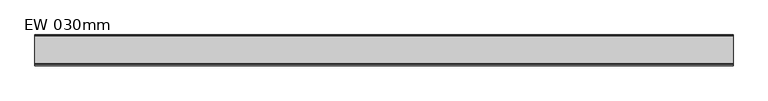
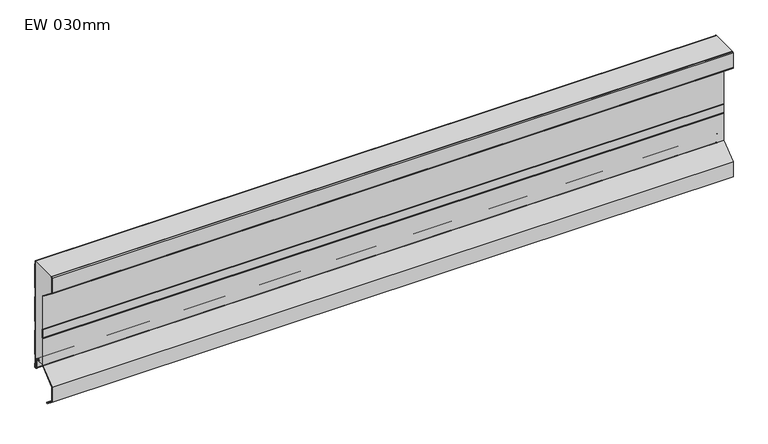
"""IFC4 building model written with IfcOpenShell, lengths in millimetres: plate geometry, KIP-MEX-KC-R19-CP-EW-SL : EW 030mm."""

from ifc_helpers import new_model, si_unit, point, frame, frame_2d, origin, place, context, project, spatial, polyline, circle_curve, trimmed, segment, composite_curve, outline, extrude, source, transform, mapped, element, save


def ew_030mm_0b81b853(model_context):
    return source(origin(), model_context, "Body", "SweptSolid", [
        extrude(outline(composite_curve([segment(polyline([(-2.2002307, 217.6192114), (-2.2002307, 224.3718713), (-1.2002307, 224.3718713), (-1.2002307, 217.9920919), (-0.3417885, 217.0010442)]), True, "CONTINUOUS"), segment(trimmed(circle_curve(frame_2d((-1.3999972, 216.0844273)), 1.3999972), [point((-0.3417885, 217.0010442))], [point((0.0, 216.0844273))], False, "CARTESIAN"), True, "CONTINUOUS"), segment(polyline([(0.0, 216.0844273), (0.0, 162.3293142)]), True, "CONTINUOUS"), segment(trimmed(circle_curve(frame_2d((-1.3999972, 162.3293142)), 1.3999972), [point((0.0, 162.3293142))], [point((-0.3417885, 161.4126973))], False, "CARTESIAN"), True, "CONTINUOUS"), segment(polyline([(-0.3417885, 161.4126973), (-1.2002307, 160.4216497), (-1.2002307, 141.7922443), (-0.3417885, 140.8011966)]), True, "CONTINUOUS"), segment(trimmed(circle_curve(frame_2d((-1.3999972, 139.8845797)), 1.3999972), [point((-0.3417885, 140.8011966))], [point((0.0, 139.8845797))], False, "CARTESIAN"), True, "CONTINUOUS"), segment(polyline([(0.0, 139.8845797), (0.0, 86.1294666)]), True, "CONTINUOUS"), segment(trimmed(circle_curve(frame_2d((-1.3999972, 86.1294666)), 1.3999972), [point((0.0, 86.1294666))], [point((-0.3417885, 85.2128497))], False, "CARTESIAN"), True, "CONTINUOUS"), segment(polyline([(-0.3417885, 85.2128497), (-1.2002307, 84.2218021), (-1.2002307, 65.5923967), (-0.3417885, 64.601349)]), True, "CONTINUOUS"), segment(trimmed(circle_curve(frame_2d((-1.3999972, 63.6847321)), 1.3999972), [point((-0.3417885, 64.601349))], [point((0.0, 63.6847321))], False, "CARTESIAN"), True, "CONTINUOUS"), segment(polyline([(0.0, 63.6847321), (0.0, 9.929619)]), True, "CONTINUOUS"), segment(trimmed(circle_curve(frame_2d((-1.3999972, 9.929619)), 1.3999972), [point((0.0, 9.929619))], [point((-0.3417885, 9.0130021))], False, "CARTESIAN"), True, "CONTINUOUS"), segment(polyline([(-0.3417885, 9.0130021), (-1.2002307, 8.0219545), (-1.2002307, -10.6074509), (-0.3417885, -11.5984986)]), True, "CONTINUOUS"), segment(trimmed(circle_curve(frame_2d((-1.3999972, -12.5151155)), 1.3999972), [point((-0.3417885, -11.5984986))], [point((0.0, -12.5151155))], False, "CARTESIAN"), True, "CONTINUOUS"), segment(polyline([(0.0, -12.5151155), (0.0, -20.3675812)]), True, "CONTINUOUS"), segment(trimmed(circle_curve(frame_2d((-1.4999795, -20.3675812)), 1.4999795), [point((0.0, -20.3675812))], [point((-1.4999795, -21.8675607))], False, "CARTESIAN"), True, "CONTINUOUS"), segment(polyline([(-1.4999795, -21.8675607), (-2.4999032, -21.8675607)]), True, "CONTINUOUS"), segment(trimmed(circle_curve(frame_2d((-2.4999032, -18.3676454)), 3.4999153), [point((-2.4999032, -21.8675607))], [point((-5.9998185, -18.3676454))], False, "CARTESIAN"), True, "CONTINUOUS"), segment(polyline([(-5.9998185, -18.3676454), (-5.9998185, -0.3670479)]), True, "CONTINUOUS"), segment(trimmed(circle_curve(frame_2d((-8.0001747, -0.3670479)), 2.0003562), [point((-5.9998185, -0.3670479))], [point((-7.9986755, 1.6333077))], True, "CARTESIAN"), True, "CONTINUOUS"), segment(polyline([(-7.9986755, 1.6333077), (-11.5958583, 1.6333077)]), True, "CONTINUOUS"), segment(trimmed(circle_curve(frame_2d((-11.5943838, 4.1340836)), 2.5007763), [point((-11.5958583, 1.6333077))], [point((-14.0574976, 3.7017037))], False, "CARTESIAN"), True, "CONTINUOUS"), segment(polyline([(-14.0574976, 3.7017037), (-14.6793261, 7.2440392), (-13.694386, 7.4169375), (-13.0725576, 3.8746027)]), True, "CONTINUOUS"), segment(trimmed(circle_curve(frame_2d((-11.5943841, 4.1340842)), 1.5007756), [point((-13.0725576, 3.8746027))], [point((-11.5943841, 2.6333086))], True, "CARTESIAN"), True, "CONTINUOUS"), segment(polyline([(-11.5943841, 2.6333086), (-7.9980709, 2.6333089)]), True, "CONTINUOUS"), segment(trimmed(circle_curve(frame_2d((-8.0001719, -0.3670493)), 3.0003589), [point((-7.9980709, 2.6333089))], [point((-4.999813, -0.3670493))], False, "CARTESIAN"), True, "CONTINUOUS"), segment(polyline([(-4.999813, -0.3670493), (-4.999813, -18.3676343)]), True, "CONTINUOUS"), segment(trimmed(circle_curve(frame_2d((-2.4999087, -18.3676343)), 2.4999043), [point((-4.999813, -18.3676343))], [point((-2.4999087, -20.8675386))], True, "CARTESIAN"), True, "CONTINUOUS"), segment(polyline([(-2.4999087, -20.8675386), (-0.9999889, -20.8675386), (-0.9999889, -12.3659771), (-2.2002307, -10.9803314), (-2.2002307, 8.3948349), (-1.0, 9.7804679), (-1.0, 63.8338833), (-2.2002307, 65.2195162), (-2.2002307, 84.5946825), (-1.0, 85.9803155), (-1.0, 140.0337309), (-2.2002307, 141.4193638), (-2.2002307, 160.7945301), (-1.0, 162.1801631), (-1.0, 216.2335785), (-2.2002307, 217.6192114)]), True, "CONTINUOUS")], self_intersect=False)), frame((-740.0, 0.0, 0.0), z_axis=(1.0, 0.0, 0.0), x_axis=(0.0, 1.0, 0.0)), (0.0, 0.0, 1.0), 1480.0),
        extrude(outline(composite_curve([segment(trimmed(circle_curve(frame_2d((-45.7875816, -75.4831487)), 1.5000016), [point((-45.338162, -74.0520558))], [point((-46.714315, -76.6626274))], False, "CARTESIAN"), True, "CONTINUOUS"), segment(polyline([(-46.714315, -76.6626274), (-65.000038, -62.2952701), (-65.000038, -27.2952321), (-30.0, 0.2047977), (-30.0, 62.4737665), (-28.9999989, 63.8880496), (-28.9999989, 82.4599218), (-30.0, 83.8742048), (-30.0, 160.2049713), (-65.000038, 187.7050012), (-65.000038, 222.7050392), (-62.8786153, 224.3718713), (-61.2600249, 224.3718713), (-64.000038, 222.2190039), (-64.000038, 188.1910365), (-29.0, 160.6910066), (-29.0, 84.1920296), (-27.9999989, 82.7777465), (-27.9999989, 63.5702249), (-29.0, 62.1559418), (-29.0, -0.2812376), (-64.000038, -27.7812674), (-64.000038, -61.8092349), (-49.3105941, -73.3509437), (-45.338162, -74.0520558)]), True, "CONTINUOUS")], self_intersect=False)), frame((-740.0, 0.0, 0.0), z_axis=(1.0, 0.0, 0.0), x_axis=(0.0, 1.0, 0.0)), (0.0, 0.0, 1.0), 1480.0),
        extrude(outline(composite_curve([segment(polyline([(-64.000038, 222.2190039), (-61.2600249, 224.3718713), (-2.2002307, 224.3718713), (-2.2002307, 217.6192115), (-1.0, 216.2335785), (-1.0, 162.1801631), (-2.2002307, 160.7945302), (-2.2002307, 141.4193639), (-1.0, 140.0337309), (-1.0, 85.9803155), (-2.2002307, 84.5946826), (-2.2002307, 65.2195163), (-1.0, 63.8338833), (-1.0, 9.7804679), (-2.2002307, 8.394835), (-2.2002307, -10.9803313), (-0.9999916, -12.365974), (-0.9999916, -20.8675386), (-2.4999198, -20.8675386)]), True, "CONTINUOUS"), segment(trimmed(circle_curve(frame_2d((-2.4999198, -18.3676343)), 2.4999043), [point((-2.4999198, -20.8675386))], [point((-4.9998241, -18.3676343))], False, "CARTESIAN"), True, "CONTINUOUS"), segment(polyline([(-4.9998241, -18.3676343), (-4.9998241, -0.3670493)]), True, "CONTINUOUS"), segment(trimmed(circle_curve(frame_2d((-8.0001829, -0.3670493)), 3.0003589), [point((-4.9998241, -0.3670493))], [point((-7.998082, 2.6333088))], True, "CARTESIAN"), True, "CONTINUOUS"), segment(polyline([(-7.998082, 2.6333088), (-11.5943952, 2.6333088)]), True, "CONTINUOUS"), segment(trimmed(circle_curve(frame_2d((-11.5943952, 4.1340843)), 1.5007755), [point((-11.5943952, 2.6333088))], [point((-13.0725686, 3.8746028))], False, "CARTESIAN"), True, "CONTINUOUS"), segment(polyline([(-13.0725686, 3.8746028), (-13.6943971, 7.4169376), (-14.6793372, 7.2440392), (-14.0575086, 3.7017037)]), True, "CONTINUOUS"), segment(trimmed(circle_curve(frame_2d((-11.5943948, 4.1340836)), 2.5007762), [point((-14.0575086, 3.7017037))], [point((-11.5958694, 1.6333077))], True, "CARTESIAN"), True, "CONTINUOUS"), segment(polyline([(-11.5958694, 1.6333077), (-29.0, 1.6333077), (-29.0, 62.1559418), (-27.9999989, 63.5702249), (-27.9999989, 82.7777465), (-29.0, 84.1920296), (-29.0, 160.6910066), (-64.000038, 188.1910365), (-64.000038, 222.2190039)]), True, "CONTINUOUS")], self_intersect=False)), frame((-740.0, 0.0, 0.0), z_axis=(1.0, 0.0, 0.0), x_axis=(0.0, 1.0, 0.0)), (0.0, 0.0, 1.0), 1480.0),
    ])


if __name__ == "__main__":
    model = new_model("IFC4")
    model_context = context("Model", 3, world=origin())
    ifc_project = project(units=[si_unit("LENGTHUNIT", "METRE", prefix="MILLI")], contexts=[model_context])
    site = spatial("IfcSite", under=ifc_project)
    building = spatial("IfcBuilding", under=site)
    placement = place(None, origin())
    ew_030mm_shape = ew_030mm_0b81b853(model_context)
    element("IfcPlate", 1, ObjectType="KIP-MEX-KC-R19-CP-EW-SL : EW 030mm", at=placement, inside=building, context=model_context, shape_type="MappedRepresentation", body=[
        mapped(ew_030mm_shape, transform((0.0, 0.0, 0.0), x_axis=(1.0, 0.0, 0.0), y_axis=(0.0, 1.0, 0.0), z_axis=(0.0, 0.0, 1.0))),
    ])
    save(model, "model.ifc")
